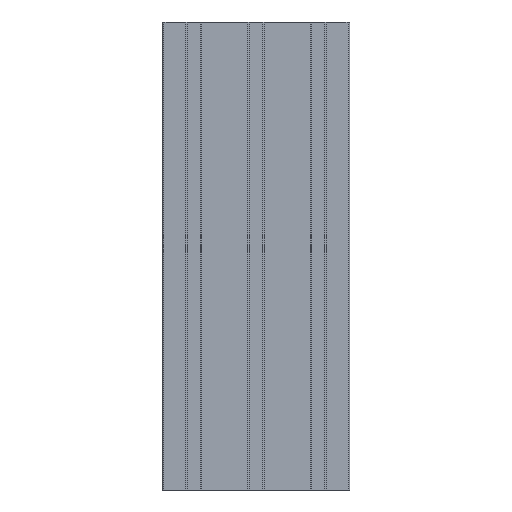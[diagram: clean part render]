
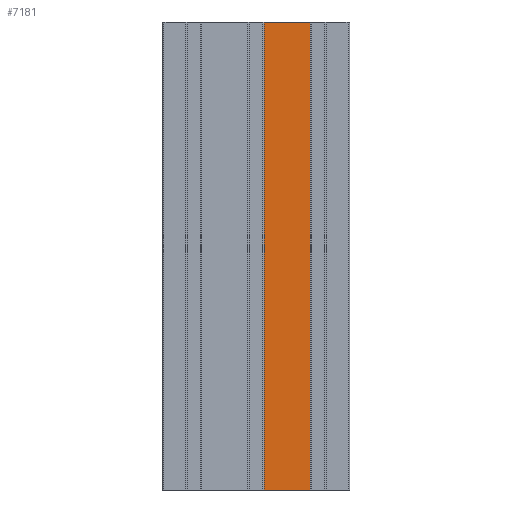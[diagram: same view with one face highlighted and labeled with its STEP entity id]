
A CAD part, front view. The second image highlights one B-rep face of the part: STEP entity #7181.
In plain terms, the highlighted planar face has unit normal (0, -1, 0).
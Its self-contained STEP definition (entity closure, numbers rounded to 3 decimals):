
#1317 = CARTESIAN_POINT ( 'NONE',  ( 1934.368, 1976.685, 300. ) ) ;
#1509 = FACE_OUTER_BOUND ( 'NONE', #4165, .T. ) ;
#1578 = CARTESIAN_POINT ( 'NONE',  ( 1963.968, 1976.685, 0. ) ) ;
#2028 = CARTESIAN_POINT ( 'NONE',  ( 1934.368, 1976.685, 0. ) ) ;
#2305 = VECTOR ( 'NONE', #7551, 1000. ) ;
#2978 = CARTESIAN_POINT ( 'NONE',  ( 1934.368, 1976.685, 0. ) ) ;
#3084 = LINE ( 'NONE', #5966, #8125 ) ;
#3813 = EDGE_CURVE ( 'NONE', #7733, #5025, #7895, .T. ) ;
#3965 = DIRECTION ( 'NONE',  ( 1., 0., 0. ) ) ;
#4145 = LINE ( 'NONE', #7800, #2305 ) ;
#4165 = EDGE_LOOP ( 'NONE', ( #10720, #10683, #5839, #5721 ) ) ;
#4398 = LINE ( 'NONE', #2978, #7758 ) ;
#4943 = VECTOR ( 'NONE', #10194, 1000. ) ;
#4991 = CARTESIAN_POINT ( 'NONE',  ( 1934.368, 1976.685, 300. ) ) ;
#5025 = VERTEX_POINT ( 'NONE', #2028 ) ;
#5587 = PLANE ( 'NONE',  #9276 ) ;
#5721 = ORIENTED_EDGE ( 'NONE', *, *, #3813, .T. ) ;
#5839 = ORIENTED_EDGE ( 'NONE', *, *, #8360, .F. ) ;
#5966 = CARTESIAN_POINT ( 'NONE',  ( 1934.368, 1976.685, 300. ) ) ;
#6174 = CARTESIAN_POINT ( 'NONE',  ( 1934.368, 1976.685, 300. ) ) ;
#6415 = EDGE_CURVE ( 'NONE', #7658, #8701, #4145, .T. ) ;
#6430 = EDGE_CURVE ( 'NONE', #5025, #8701, #4398, .T. ) ;
#6725 = DIRECTION ( 'NONE',  ( 0., 1., 0. ) ) ;
#7181 = ADVANCED_FACE ( 'NONE', ( #1509 ), #5587, .F. ) ;
#7551 = DIRECTION ( 'NONE',  ( 0., 0., -1. ) ) ;
#7658 = VERTEX_POINT ( 'NONE', #8919 ) ;
#7733 = VERTEX_POINT ( 'NONE', #4991 ) ;
#7758 = VECTOR ( 'NONE', #8726, 1000. ) ;
#7800 = CARTESIAN_POINT ( 'NONE',  ( 1963.968, 1976.685, 300. ) ) ;
#7895 = LINE ( 'NONE', #1317, #4943 ) ;
#8125 = VECTOR ( 'NONE', #3965, 1000. ) ;
#8360 = EDGE_CURVE ( 'NONE', #7733, #7658, #3084, .T. ) ;
#8701 = VERTEX_POINT ( 'NONE', #1578 ) ;
#8726 = DIRECTION ( 'NONE',  ( 1., 0., 0. ) ) ;
#8919 = CARTESIAN_POINT ( 'NONE',  ( 1963.968, 1976.685, 300. ) ) ;
#8995 = DIRECTION ( 'NONE',  ( 0., 0., 1. ) ) ;
#9276 = AXIS2_PLACEMENT_3D ( 'NONE', #6174, #6725, #8995 ) ;
#10194 = DIRECTION ( 'NONE',  ( 0., 0., -1. ) ) ;
#10683 = ORIENTED_EDGE ( 'NONE', *, *, #6415, .F. ) ;
#10720 = ORIENTED_EDGE ( 'NONE', *, *, #6430, .T. ) ;
